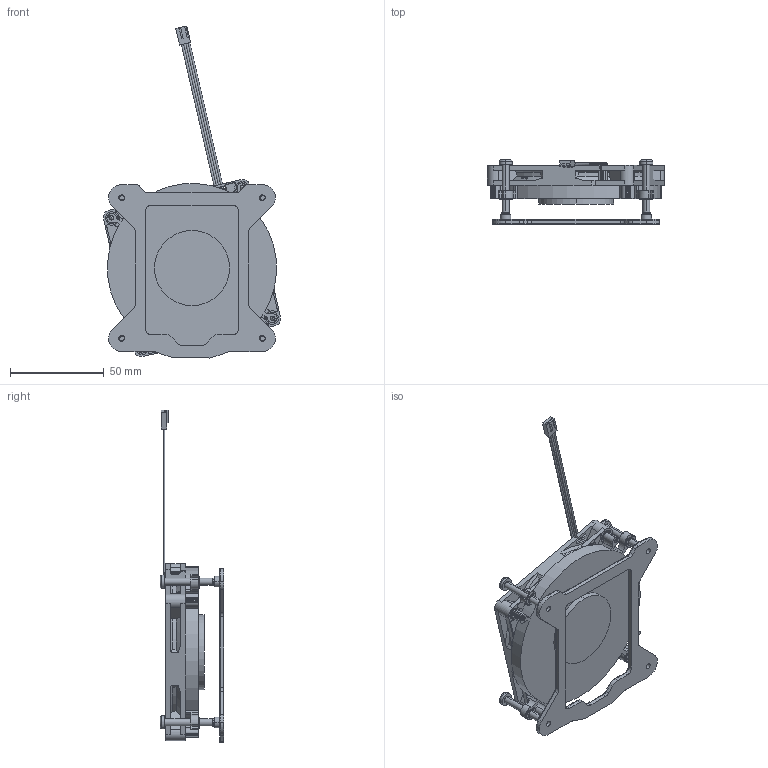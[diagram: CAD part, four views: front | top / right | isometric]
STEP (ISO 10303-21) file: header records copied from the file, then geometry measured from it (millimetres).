
FILE_DESCRIPTION((''),'2;1');
FILE_NAME('RG3129-20-002_ME_ASM','2022-11-02T',('User'),(''),'PRO/ENGINEER BY PARAMETRIC TECHNOLOGY CORPORATION, 2017170','PRO/ENGINEER BY PARAMETRIC TECHNOLOGY CORPORATION, 2017170','');
FILE_SCHEMA(('CONFIG_CONTROL_DESIGN'));
Length unit declared in the file: millimetre
Products named in the file (19): D90X10_A_C___SINK__1; CU-PIN_10_1; D90_10H_AC_ASSY_ASM_1_ASM; DEAKTOP_SCREW_D7_30_8L_1; E-RING_1; DESKTOP_SCREW_ASSY_ASM_1_ASM; DESKTOP_D90_10H_AC_ASSY_ASM_1_ASM; PRT0002_1; 8010_1; R128010BUAF325AR_1_ASM_2_ASM; R128010BUAF325AR_ASM_1_ASM; FAN_SCREW_T3X16_6_1; LABEL_R24_1_1; R128010BUAF325AR_10H_ASSY_ASM_1_ASM; 850-BP1156_1; MYLER_1; 850-BP1156_ASSY__ASM_1_ASM; RG3129-20_ASM_1_ASM; RG3129-20-002_ME_ASM
Assembly tree (24 placements, depth 6):
  RG3129-20-002_ME_ASM
    RG3129-20_ASM_1_ASM
      DESKTOP_D90_10H_AC_ASSY_ASM_1_ASM
        D90_10H_AC_ASSY_ASM_1_ASM
          D90X10_A_C___SINK__1
          CU-PIN_10_1
        DESKTOP_SCREW_ASSY_ASM_1_ASM  x4
          DEAKTOP_SCREW_D7_30_8L_1
          E-RING_1
      R128010BUAF325AR_10H_ASSY_ASM_1_ASM
        R128010BUAF325AR_ASM_1_ASM
          R128010BUAF325AR_1_ASM_2_ASM
            PRT0002_1
            8010_1
        FAN_SCREW_T3X16_6_1  x4
        LABEL_R24_1_1
      850-BP1156_ASSY__ASM_1_ASM
        850-BP1156_1
        MYLER_1
Bounding box: 94.34 x 34.1 x 176.94 mm (x, y, z)
Volume: 100566.2 mm3; surface area: 63696.9 mm2
Topology: 19 solids, 19 shells, 3161 faces, 8645 edges, 5592 vertices
Faces by surface type: plane 1521, bspline 715, cylinder 646, extrusion 113, cone 111, torus 47, sphere 8
Entity records: 69434 total; most frequent: CARTESIAN_POINT 22447, ORIENTED_EDGE 10292, DIRECTION 8929, EDGE_CURVE 5146, VERTEX_POINT 3411, VECTOR 3111, LINE 3001, AXIS2_PLACEMENT_3D 2909
